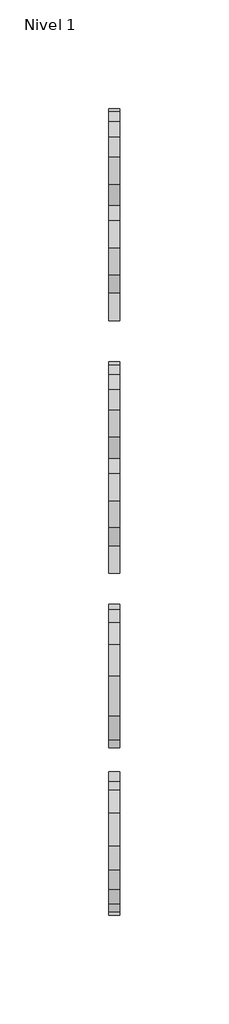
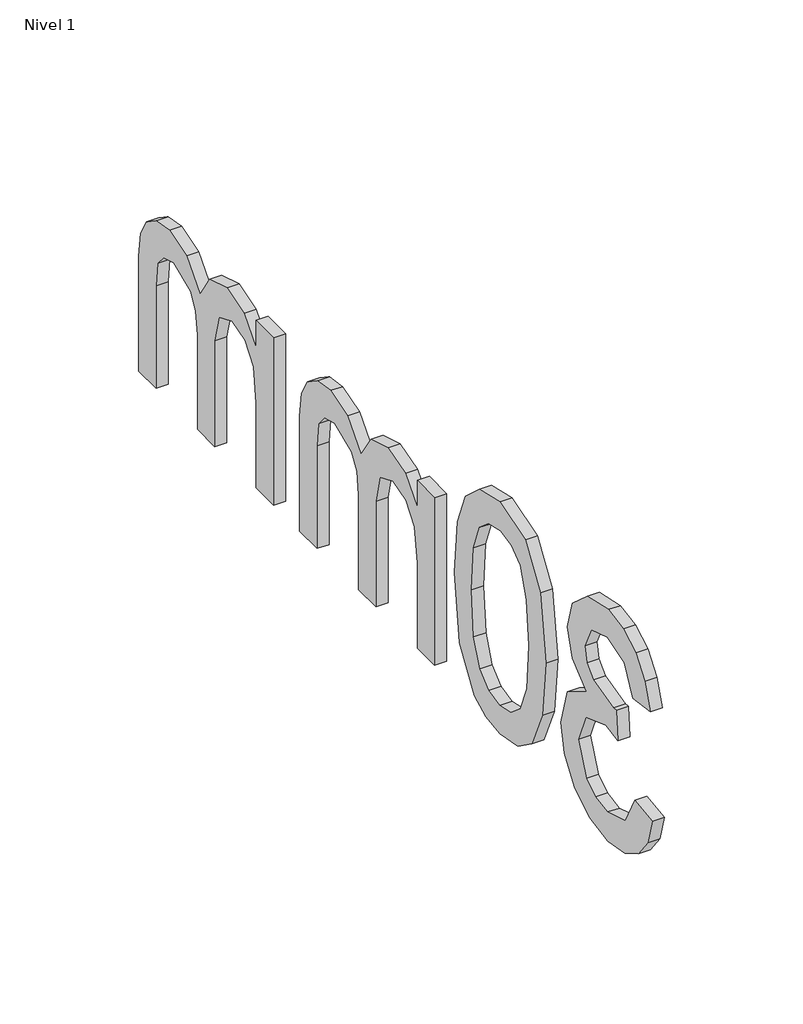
# One storey, incomplete: 1 proxy.
"""IFC4 building model written with IfcOpenShell, lengths in millimetres."""

from ifc_helpers import new_model, si_unit, frame, origin, place, context, project, spatial, polyline, outline, extrude, element, save

model = new_model("IFC4")

# Units and contexts
model_context = context("Model", 3, world=origin())
ifc_project = project(units=[si_unit("LENGTHUNIT", "METRE", prefix="MILLI")], contexts=[model_context])

# Site, building, storey
site = spatial("IfcSite", under=ifc_project)
building = spatial("IfcBuilding", under=site)
storey = spatial("IfcBuildingStorey", under=building, Name="Nivel 1", Elevation=0.0)

# Proxy
placement = place(None, origin())
element("IfcBuildingElementProxy", 1, Name="100mm Arial", ObjectType="100mm Arial", at=placement, inside=storey, context=model_context, shape_type="SweptSolid", body=[
    extrude(outline(polyline([(14811.6332666, -790.4578656), (14824.1903054, -788.8882358), (14831.1187496, -802.1074622), (14844.0804586, -806.1541641), (14852.6888973, -804.7623439), (14859.3352987, -800.5868832), (14865.0006814, -786.8035712), (14859.3843496, -773.8173367), (14845.1105282, -768.6792515), (14836.3058858, -770.0526776), (14837.7038373, -757.4956389), (14839.7149256, -757.6427917), (14853.9642215, -754.0375481), (14858.7098993, -749.4635487), (14860.2917918, -742.9520373), (14855.7055296, -733.1295881), (14843.8842549, -729.2423016), (14831.9158273, -733.1663763), (14825.7599352, -744.9386001), (14813.2028965, -743.3689703), (14816.9001105, -732.0933871), (14823.4790669, -723.6750208), (14832.479913, -718.4327024), (14843.4427965, -716.6852629), (14858.5872719, -720.1310909), (14869.1822734, -729.54887), (14872.8488306, -742.2162733), (14869.3662144, -753.7922935), (14859.0655185, -762.1064266), (14872.7507287, -770.6903398), (14877.5577201, -787.0243004), (14875.1542244, -799.2625081), (14867.9437373, -809.4896275), (14857.0605616, -816.405809), (14843.6390002, -818.7112029), (14831.4988943, -816.7430342), (14821.6151314, -810.8385282), (14814.7418695, -801.8070252), (14811.6332666, -790.4578656)])), frame((9557.0230098, 0.0, 0.0), z_axis=(1.0, 0.0, 0.0), x_axis=(0.0, 1.0, 0.0)), (0.0, 0.0, 1.0), 5.0),
    extrude(outline(polyline([(14888.5451291, -767.7227583), (14892.2362118, -738.8194963), (14903.1990952, -722.1544419), (14921.5073558, -716.6852629), (14936.1735847, -719.9226244), (14946.3026023, -729.2545644), (14952.1887142, -744.116997), (14954.4695826, -767.7227583), (14950.8152881, -796.5033931), (14939.8891929, -813.2052357), (14931.6578332, -817.3347111), (14921.5073558, -818.7112029), (14908.4598077, -816.3199699), (14898.5515193, -809.146271), (14891.0467266, -792.1562542), (14888.5451291, -767.7227583)]), holes=[polyline([(14901.1021678, -767.6982329), (14902.5736958, -787.4504303), (14906.9882798, -798.8823633), (14913.5611047, -804.3362139), (14921.5073558, -806.1541641), (14929.4536069, -804.3300825), (14936.0264319, -798.8578379), (14940.4410159, -787.4197735), (14941.9125438, -767.6982329), (14940.4900668, -748.3905595), (14936.2226356, -736.8697217), (14929.6620734, -731.1491567), (14921.360203, -729.2423016), (14913.4997911, -730.9222961), (14907.1844835, -735.9622794), (14902.6227467, -748.2004871), (14901.1021678, -767.6982329)])]), frame((9557.0230098, 0.0, 0.0), z_axis=(1.0, 0.0, 0.0), x_axis=(0.0, 1.0, 0.0)), (0.0, 0.0, 1.0), 5.0),
    extrude(outline(polyline([(14968.5962512, -817.141573), (14968.5962512, -743.3689703), (14981.15329, -743.3689703), (14981.15329, -755.5090761), (14989.7862541, -745.5639995), (15002.0735128, -741.7993404), (15014.655077, -745.6375759), (15021.5712585, -756.3919929), (15031.3691823, -745.4475035), (15043.7422801, -741.7993404), (15053.181519, -743.3168536), (15060.1620798, -747.8693933), (15064.4754962, -755.5795868), (15065.9133017, -766.5700614), (15065.9133017, -817.141573), (15053.3562629, -817.141573), (15053.3562629, -771.965664), (15052.1913033, -761.4810272), (15047.972923, -756.3184165), (15040.7992241, -754.3563792), (15028.4506518, -759.3840998), (15024.7626348, -765.9262679), (15023.5332958, -775.4973312), (15023.5332958, -817.141573), (15010.9762571, -817.141573), (15010.9762571, -770.5677124), (15008.0699893, -758.4030811), (14998.5418456, -754.3563792), (14989.2466939, -757.0541805), (14983.0662764, -764.9513806), (14981.15329, -779.9364406), (14981.15329, -817.141573), (14968.5962512, -817.141573)])), frame((9557.0230098, 0.0, 0.0), z_axis=(1.0, 0.0, 0.0), x_axis=(0.0, 1.0, 0.0)), (0.0, 0.0, 1.0), 5.0),
    extrude(outline(polyline([(15084.7488598, -817.141573), (15084.7488598, -743.3689703), (15097.3058986, -743.3689703), (15097.3058986, -755.5090761), (15105.9388628, -745.5639995), (15118.2261214, -741.7993404), (15130.8076856, -745.6375759), (15137.7238671, -756.3919929), (15147.5217909, -745.4475035), (15159.8948887, -741.7993404), (15169.3341276, -743.3168536), (15176.3146884, -747.8693933), (15180.6281048, -755.5795868), (15182.0659103, -766.5700614), (15182.0659103, -817.141573), (15169.5088715, -817.141573), (15169.5088715, -771.965664), (15168.3439119, -761.4810272), (15164.1255317, -756.3184165), (15156.9518327, -754.3563792), (15144.6032604, -759.3840998), (15140.9152434, -765.9262679), (15139.6859044, -775.4973312), (15139.6859044, -817.141573), (15127.1288657, -817.141573), (15127.1288657, -770.5677124), (15124.2225979, -758.4030811), (15114.6944542, -754.3563792), (15105.3993025, -757.0541805), (15099.218885, -764.9513806), (15097.3058986, -779.9364406), (15097.3058986, -817.141573), (15084.7488598, -817.141573)])), frame((9557.0230098, 0.0, 0.0), z_axis=(1.0, 0.0, 0.0), x_axis=(0.0, 1.0, 0.0)), (0.0, 0.0, 1.0), 5.0),
])

save(model, "model.ifc")
